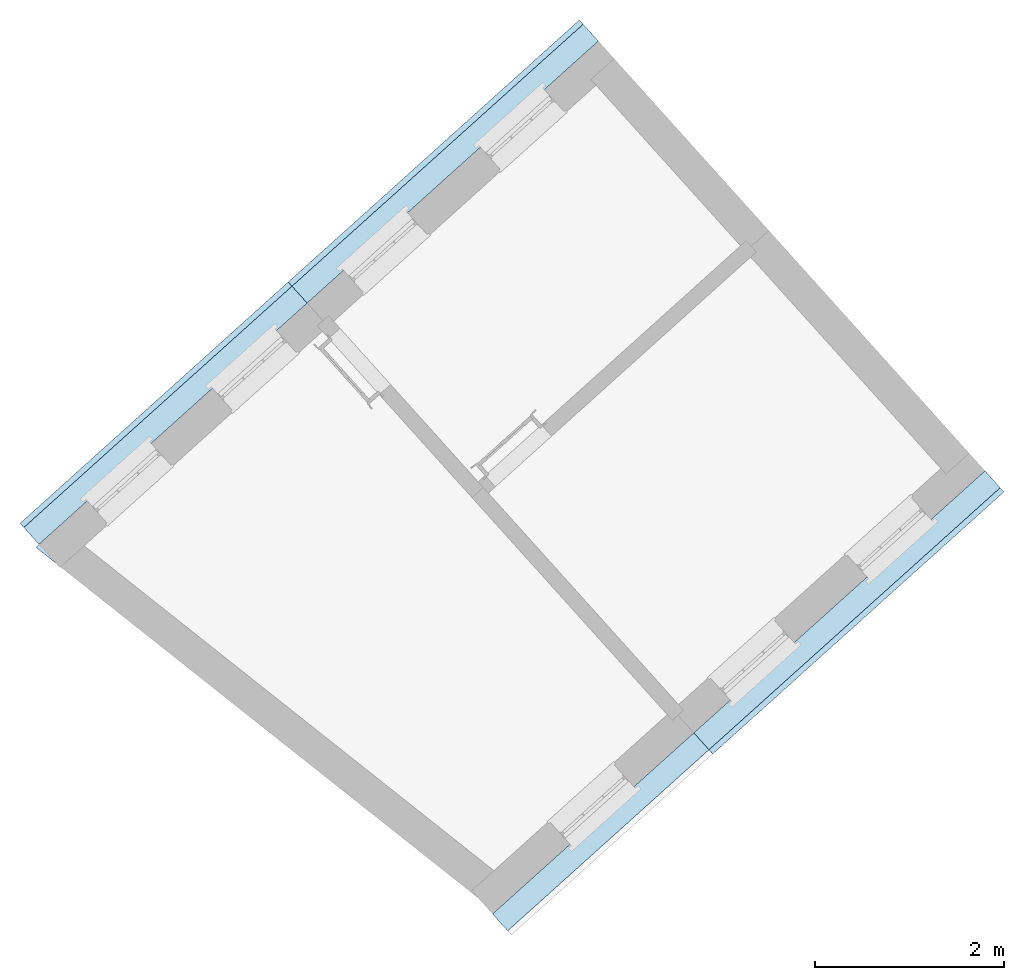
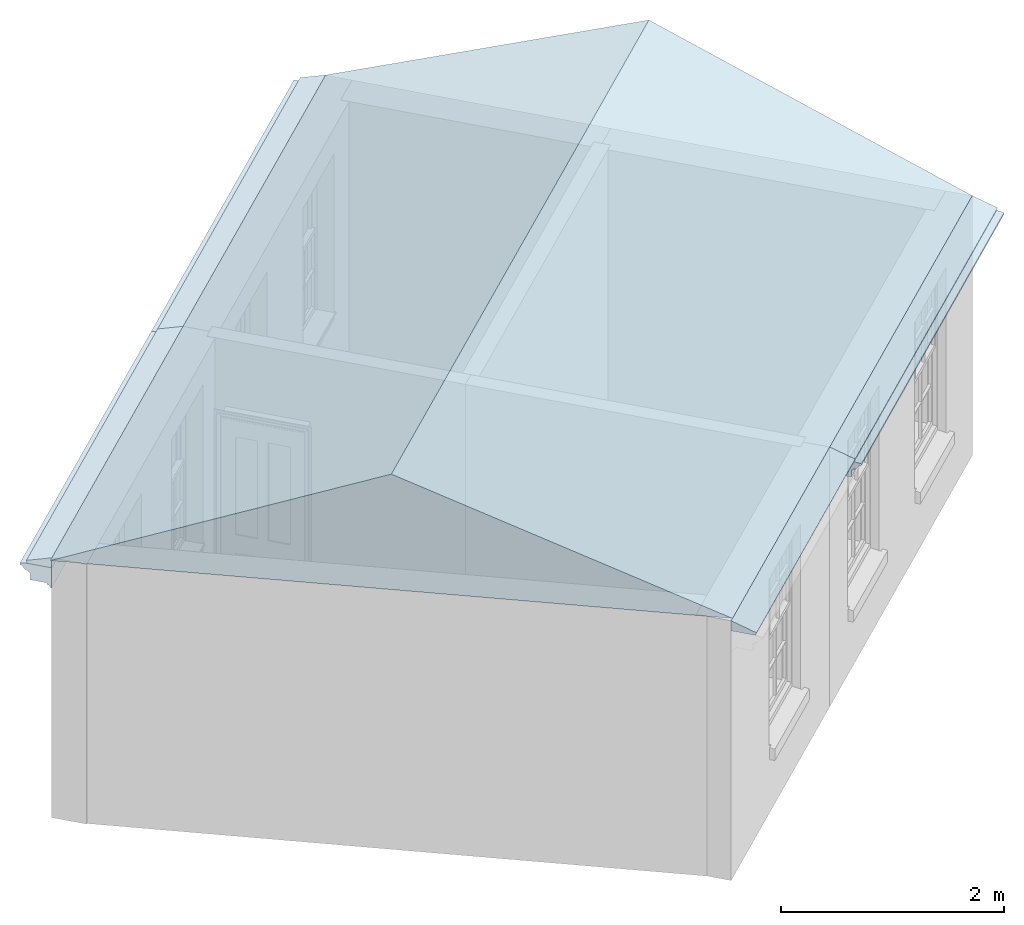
# One storey, part 3 of 3: 8 roofs.
"""IFC4 building model written with IfcOpenShell, lengths in metres."""

from ifc_helpers import new_model, si_unit, frame, origin, origin_with_axes, place, context, subcontext, project, spatial, polyline, outline, extrude, clip, halfspace, faceted_brep, material_profile, profile_set, profile_usage, type_object, element, save


model = new_model("IFC4")

# Units and contexts
model_context = context("Model", 3, world=origin_with_axes())
body_context = subcontext(model_context, "Body", "Model", "MODEL_VIEW")
ifc_project = project(units=[si_unit("PLANEANGLEUNIT", "RADIAN"), si_unit("MASSUNIT", "GRAM", prefix="KILO"), si_unit("FORCEUNIT", "NEWTON", prefix="KILO"), si_unit("LENGTHUNIT", "METRE"), si_unit("AREAUNIT", "SQUARE_METRE"), si_unit("VOLUMEUNIT", "CUBIC_METRE")], contexts=[model_context, model_context])

# Sites, building, storey
site_1_placement = place(None, origin_with_axes())
site_1 = spatial("IfcSite", under=ifc_project, at=site_1_placement, Name="Tamar")
site_2_placement = place(site_1_placement, origin_with_axes())
site_2 = spatial("IfcSite", under=site_1, at=site_2_placement, Name="Site plot-6", CompositionType="ELEMENT")
building_placement = place(None, origin_with_axes())
building = spatial("IfcBuilding", under=site_2, at=building_placement, Name="Building plot-6", CompositionType="ELEMENT")
storey_placement = place(None, frame((0.0, 0.0, 31.7), z_axis=(0.0, 0.0, 1.0), x_axis=(1.0, 0.0, 0.0)))
storey = spatial("IfcBuildingStorey", under=building, at=storey_placement, Name="plot-6 2", CompositionType="ELEMENT", Elevation=31.7)

# Roofs
ifc_material_profile_1 = material_profile(None, outline(polyline([(0.25, -0.11), (0.25, -0.33), (0.265, -0.33), (0.268, -0.318), (0.274, -0.309), (0.283, -0.303), (0.295, -0.3), (0.295, -0.285), (0.455, -0.285), (0.455, -0.205), (0.47, -0.205), (0.47, -0.19), (0.483, -0.189), (0.494, -0.186), (0.506, -0.179), (0.514, -0.17), (0.52, -0.16), (0.529, -0.149), (0.539, -0.143), (0.55, -0.14), (0.55, -0.12), (0.48, -0.11), (0.25, -0.11)])))
ifc_profile_set_1 = profile_set([ifc_material_profile_1])
ifc_profile_usage_1 = profile_usage(ifc_profile_set_1)
roof_type_1 = type_object("IfcRoofType", Name="eaves_0", PredefinedType="FREEFORM", material=ifc_profile_set_1)
roof_1_placement = place(storey_placement, frame((241.585042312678, 281.457451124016, 2.85), z_axis=(-0.743394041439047, -0.668853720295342, 0.0), x_axis=(0.668853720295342, -0.743394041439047, 0.0)))
element("IfcRoof", 1, at=roof_1_placement, inside=storey, type_object=roof_type_1, material=ifc_profile_usage_1, Name="eaves_0", context=body_context, shape_type="Clipping", body=[
    clip(clip(extrude(outline(polyline([(0.25, -0.11), (0.25, -0.33), (0.265, -0.33), (0.268, -0.318), (0.274, -0.309), (0.283, -0.303), (0.295, -0.3), (0.295, -0.285), (0.455, -0.285), (0.455, -0.205), (0.47, -0.205), (0.47, -0.19), (0.483, -0.189), (0.494, -0.186), (0.506, -0.179), (0.514, -0.17), (0.52, -0.16), (0.529, -0.149), (0.539, -0.143), (0.55, -0.14), (0.55, -0.12), (0.48, -0.11), (0.25, -0.11)])), origin_with_axes(), (0.0, 0.0, 1.0), 6.140633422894), halfspace(frame((0.0, 0.0, 5.140633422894), z_axis=(1.57590437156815e-13, 0.0, -1.0), x_axis=(0.0, 1.0, 0.0)), True)), halfspace(frame((0.0, 0.0, 1.0), z_axis=(-2.94781220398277e-15, 0.0, -1.0), x_axis=(0.0, 1.0, 0.0)), False)),
])
ifc_material_profile_2 = material_profile(None, outline(polyline([(0.25, -0.11), (0.48, -0.11), (0.49, -0.08), (0.25, 0.0), (0.25, -0.11)])))
ifc_profile_set_2 = profile_set([ifc_material_profile_2])
ifc_profile_usage_2 = profile_usage(ifc_profile_set_2)
roof_type_2 = type_object("IfcRoofType", Name="eaves_1", PredefinedType="FREEFORM", material=ifc_profile_set_2)
roof_2_placement = place(storey_placement, frame((238.506920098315, 278.687973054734, 2.85), z_axis=(-0.743394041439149, -0.66885372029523, 0.0), x_axis=(0.66885372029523, -0.743394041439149, 0.0)))
element("IfcRoof", 2, at=roof_2_placement, inside=storey, type_object=roof_type_2, material=ifc_profile_usage_2, Name="eaves_1", context=body_context, shape_type="Clipping", body=[
    clip(clip(extrude(outline(polyline([(0.25, -0.11), (0.48, -0.11), (0.49, -0.08), (0.25, 0.0), (0.25, -0.11)])), origin_with_axes(), (0.0, 0.0, 1.0), 4.8626425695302), halfspace(frame((0.0, 0.0, 3.8626425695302), z_axis=(6.15601659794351e-15, 0.0, -1.0), x_axis=(0.0, 1.0, 0.0)), True)), halfspace(frame((0.0, 0.0, 1.0), z_axis=(6.15601659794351e-15, 0.0, -1.0), x_axis=(0.0, 1.0, 0.0)), False)),
])
ifc_profile_usage_3 = profile_usage(ifc_profile_set_2)
roof_3_placement = place(storey_placement, frame((241.585042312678, 281.457451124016, 2.85), z_axis=(-0.743394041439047, -0.668853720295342, 0.0), x_axis=(0.668853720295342, -0.743394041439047, 0.0)))
element("IfcRoof", 3, at=roof_3_placement, inside=storey, type_object=roof_type_2, material=ifc_profile_usage_3, Name="eaves_1", context=body_context, shape_type="Clipping", body=[
    clip(clip(extrude(outline(polyline([(0.25, -0.11), (0.48, -0.11), (0.49, -0.08), (0.25, 0.0), (0.25, -0.11)])), origin_with_axes(), (0.0, 0.0, 1.0), 6.140633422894), halfspace(frame((0.0, 0.0, 5.140633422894), z_axis=(1.57590437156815e-13, 0.0, -1.0), x_axis=(0.0, 1.0, 0.0)), True)), halfspace(frame((0.0, 0.0, 1.0), z_axis=(-2.94781220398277e-15, 0.0, -1.0), x_axis=(0.0, 1.0, 0.0)), False)),
])
ifc_material_profile_3 = material_profile(None, outline(polyline([(0.25, -0.11), (0.25, -0.33), (0.265, -0.33), (0.268, -0.318), (0.274, -0.309), (0.283, -0.303), (0.295, -0.3), (0.295, -0.285), (0.455, -0.285), (0.455, -0.205), (0.47, -0.205), (0.47, -0.19), (0.483, -0.189), (0.494, -0.186), (0.506, -0.179), (0.514, -0.17), (0.52, -0.16), (0.529, -0.149), (0.539, -0.143), (0.55, -0.14), (0.55, -0.12), (0.48, -0.11), (0.25, -0.11)])))
ifc_profile_set_3 = profile_set([ifc_material_profile_3])
ifc_profile_usage_4 = profile_usage(ifc_profile_set_3)
roof_type_3 = type_object("IfcRoofType", Name="eaves_0", PredefinedType="FREEFORM", material=ifc_profile_set_3)
roof_4_placement = place(storey_placement, frame((233.267418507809, 281.521199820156, 2.85), z_axis=(0.743394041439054, 0.668853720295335, 0.0), x_axis=(-0.668853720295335, 0.743394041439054, 0.0)))
element("IfcRoof", 4, at=roof_4_placement, inside=storey, type_object=roof_type_3, material=ifc_profile_usage_4, Name="eaves_0", context=body_context, shape_type="Clipping", body=[
    clip(clip(extrude(outline(polyline([(0.25, -0.11), (0.25, -0.33), (0.265, -0.33), (0.268, -0.318), (0.274, -0.309), (0.283, -0.303), (0.295, -0.3), (0.295, -0.285), (0.455, -0.285), (0.455, -0.205), (0.47, -0.205), (0.47, -0.19), (0.483, -0.189), (0.494, -0.186), (0.506, -0.179), (0.514, -0.17), (0.52, -0.16), (0.529, -0.149), (0.539, -0.143), (0.55, -0.14), (0.55, -0.12), (0.48, -0.11), (0.25, -0.11)])), origin_with_axes(), (0.0, 0.0, 1.0), 6.14063342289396), halfspace(frame((0.0, 0.0, 5.14063342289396), z_axis=(-1.24957302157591e-14, 0.0, -1.0), x_axis=(0.0, 1.0, 0.0)), True)), halfspace(frame((0.0, 0.0, 1.0), z_axis=(-1.24957302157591e-14, 0.0, -1.0), x_axis=(0.0, 1.0, 0.0)), False)),
])
ifc_profile_usage_5 = profile_usage(ifc_profile_set_3)
roof_5_placement = place(storey_placement, frame((230.432532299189, 278.970568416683, 2.85), z_axis=(0.743394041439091, 0.668853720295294, 0.0), x_axis=(-0.668853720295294, 0.743394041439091, 0.0)))
element("IfcRoof", 5, at=roof_5_placement, inside=storey, type_object=roof_type_3, material=ifc_profile_usage_5, Name="eaves_0", context=body_context, shape_type="Clipping", body=[
    clip(clip(extrude(outline(polyline([(0.25, -0.11), (0.25, -0.33), (0.265, -0.33), (0.268, -0.318), (0.274, -0.309), (0.283, -0.303), (0.295, -0.3), (0.295, -0.285), (0.455, -0.285), (0.455, -0.205), (0.47, -0.205), (0.47, -0.19), (0.483, -0.189), (0.494, -0.186), (0.506, -0.179), (0.514, -0.17), (0.52, -0.16), (0.529, -0.149), (0.539, -0.143), (0.55, -0.14), (0.55, -0.12), (0.48, -0.11), (0.25, -0.11)])), origin_with_axes(), (0.0, 0.0, 1.0), 5.81343681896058), halfspace(frame((0.0, 0.0, 4.81343681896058), z_axis=(-6.8450970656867e-14, 0.0, -1.0), x_axis=(0.0, 1.0, 0.0)), True)), halfspace(frame((0.0, 0.0, 1.0), z_axis=(1.14850871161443e-14, 0.0, -1.0), x_axis=(0.0, 1.0, 0.0)), False)),
])
ifc_material_profile_4 = material_profile(None, outline(polyline([(0.25, -0.11), (0.48, -0.11), (0.49, -0.08), (0.25, 0.0), (0.25, -0.11)])))
ifc_profile_set_4 = profile_set([ifc_material_profile_4])
ifc_profile_usage_6 = profile_usage(ifc_profile_set_4)
roof_type_4 = type_object("IfcRoofType", Name="eaves_1", PredefinedType="FREEFORM", material=ifc_profile_set_4)
roof_6_placement = place(storey_placement, frame((233.267418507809, 281.521199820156, 2.85), z_axis=(0.743394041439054, 0.668853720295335, 0.0), x_axis=(-0.668853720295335, 0.743394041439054, 0.0)))
element("IfcRoof", 6, at=roof_6_placement, inside=storey, type_object=roof_type_4, material=ifc_profile_usage_6, Name="eaves_1", context=body_context, shape_type="Clipping", body=[
    clip(clip(extrude(outline(polyline([(0.25, -0.11), (0.48, -0.11), (0.49, -0.08), (0.25, 0.0), (0.25, -0.11)])), origin_with_axes(), (0.0, 0.0, 1.0), 6.14063342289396), halfspace(frame((0.0, 0.0, 5.14063342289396), z_axis=(-1.24957302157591e-14, 0.0, -1.0), x_axis=(0.0, 1.0, 0.0)), True)), halfspace(frame((0.0, 0.0, 1.0), z_axis=(-1.24957302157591e-14, 0.0, -1.0), x_axis=(0.0, 1.0, 0.0)), False)),
])
ifc_profile_usage_7 = profile_usage(ifc_profile_set_4)
roof_7_placement = place(storey_placement, frame((230.432532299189, 278.970568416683, 2.85), z_axis=(0.743394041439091, 0.668853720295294, 0.0), x_axis=(-0.668853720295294, 0.743394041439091, 0.0)))
element("IfcRoof", 7, at=roof_7_placement, inside=storey, type_object=roof_type_4, material=ifc_profile_usage_7, Name="eaves_1", context=body_context, shape_type="Clipping", body=[
    clip(clip(extrude(outline(polyline([(0.25, -0.11), (0.48, -0.11), (0.49, -0.08), (0.25, 0.0), (0.25, -0.11)])), origin_with_axes(), (0.0, 0.0, 1.0), 5.81343681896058), halfspace(frame((0.0, 0.0, 4.81343681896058), z_axis=(-6.8450970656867e-14, 0.0, -1.0), x_axis=(0.0, 1.0, 0.0)), True)), halfspace(frame((0.0, 0.0, 1.0), z_axis=(1.14850871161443e-14, 0.0, -1.0), x_axis=(0.0, 1.0, 0.0)), False)),
])
roof_8_placement = place(building_placement, origin())
element("IfcRoof", 8, at=roof_8_placement, inside=storey, Name="Roof", PredefinedType="FREEFORM", context=body_context, shape_type="Brep", body=[
    faceted_brep([(235.831513, 275.944534, 34.55), (241.008862, 280.602749, 34.55), (238.965292, 282.874065, 35.81556), (233.403041, 277.869542, 35.81556), (236.921721, 285.14538, 34.55), (230.974569, 279.79455, 34.55)], [[[0, 1, 2, 3]], [[4, 5, 3, 2]], [[5, 4, 1, 0]], [[5, 0, 3]], [[1, 4, 2]]]),
])

save(model, "model.ifc")
